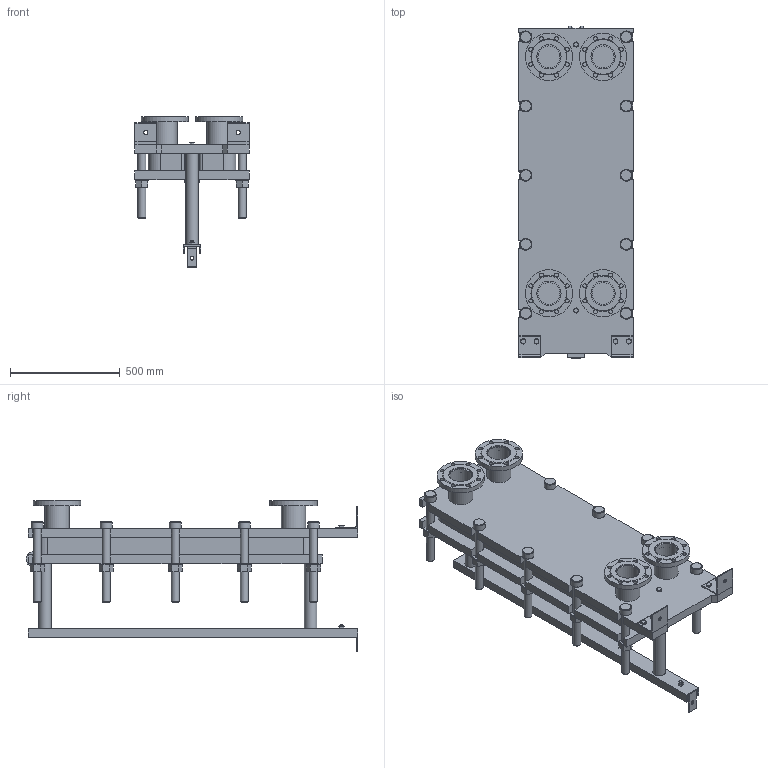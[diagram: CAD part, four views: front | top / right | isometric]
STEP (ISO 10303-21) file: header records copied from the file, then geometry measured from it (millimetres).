
FILE_DESCRIPTION(/* description */ (''),/* implementation_level */ '2;1');
FILE_NAME(/* name */ 'C:\Users\zhuro\Desktop\ENCO\TO\ЭН-04\ЭН-0,5-04-23-1.stp',/* time_stamp */ '2022-06-06T10:46:04+03:00',/* author */ ('zhuro'),/* organization */ (''),/* preprocessor_version */ 'ST-DEVELOPER v18.1',/* originating_system */ 'Autodesk Inventor 2022',/* authorisation */ '');
FILE_SCHEMA (('AUTOMOTIVE_DESIGN { 1 0 10303 214 3 1 1 }'));
Length unit declared in the file: millimetre
Products named in the file (1): ЭН-0,5-04-23-1
Bounding box: 520 x 1510 x 691.5 mm (x, y, z)
Volume: 106716460.1 mm3; surface area: 6662024.7 mm2
Topology: 45 solids, 45 shells, 668 faces, 1611 edges, 1048 vertices
Faces by surface type: plane 457, cylinder 166, cone 39, torus 6
Full cylindrical faces by diameter (mm): 8 x4, 10 x2, 16 x8, 18 x35, 36 x25, 40 x2, 42 x1, 45 x4, 54 x10, 57 x2, 60 x10, 68 x2, 100 x4, 110 x8, 215 x4
Entity records: 23607 total; most frequent: CARTESIAN_POINT 7348, DIRECTION 3371, ORIENTED_EDGE 3142, EDGE_CURVE 1571, AXIS2_PLACEMENT_3D 1199, VERTEX_POINT 1044, LINE 973, VECTOR 973
